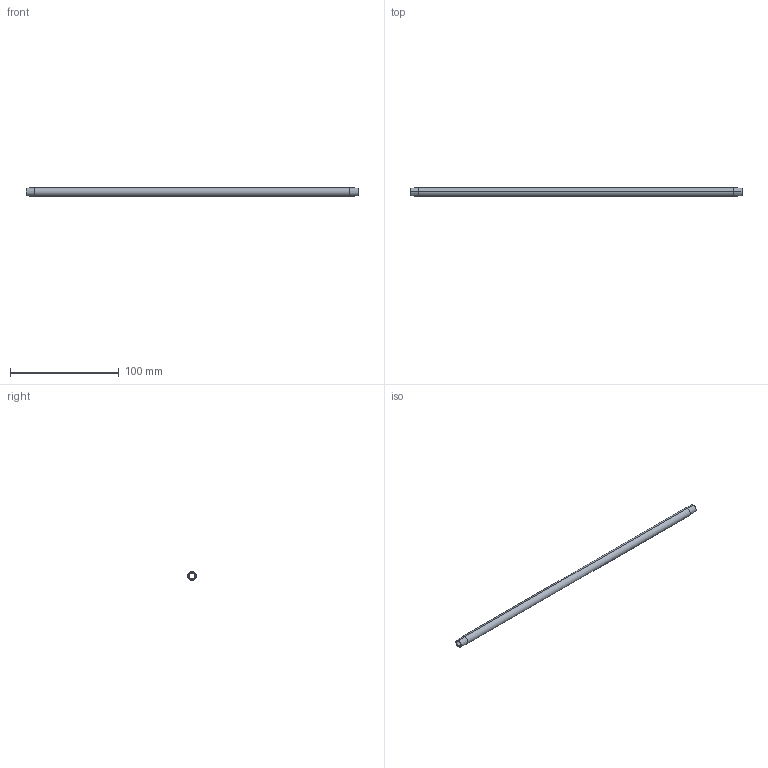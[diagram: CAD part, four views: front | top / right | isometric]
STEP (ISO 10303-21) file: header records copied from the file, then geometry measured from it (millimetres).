
FILE_DESCRIPTION (( 'STEP AP203' ), '1' );
FILE_NAME ('BPN06L12.step', '2020-08-19T07:22:17', ( 'Microsoft Corporation' ), ( 'MS' ), 'SwSTEP 2.0', 'SolidWorks 2018', '' );
FILE_SCHEMA (( 'CONFIG_CONTROL_DESIGN' ));
Length unit declared in the file: inch
Products named in the file (1): BPN06L12
Bounding box: 304.8 x 7.94 x 7.94 mm (x, y, z)
Volume: 8256.7 mm3; surface area: 12698.7 mm2
Topology: 1 solids, 1 shells, 10 faces, 20 edges, 12 vertices
Faces by surface type: cone 4, cylinder 4, plane 2
Entity records: 347 total; most frequent: DIRECTION 54, CARTESIAN_POINT 43, ORIENTED_EDGE 40, AXIS2_PLACEMENT_3D 23, EDGE_CURVE 20, VERTEX_POINT 12, EDGE_LOOP 12, CIRCLE 12
